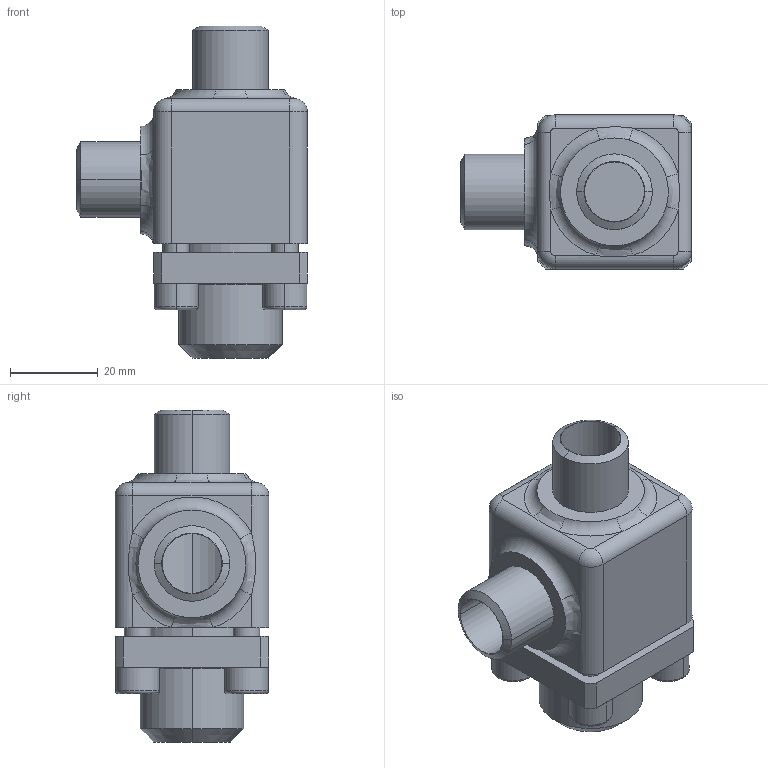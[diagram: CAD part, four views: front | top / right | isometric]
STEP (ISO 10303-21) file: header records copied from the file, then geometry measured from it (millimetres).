
FILE_DESCRIPTION (( 'STEP AP214' ), '1' );
FILE_NAME ('RV98400-DN010_R1_PS40.STEP', '2006-05-02T09:31:25', ( 'Herr Grams' ), ( 'AWP GmbH' ), 'SwSTEP 2.0', 'SolidWorks 2002296', '' );
FILE_SCHEMA (( 'AUTOMOTIVE_DESIGN' ));
Length unit declared in the file: millimetre
Products named in the file (5): RV98400-DN010_R1_PS40; Gehäuse96400E08-DN10_PS40_R1_Standard; RV98300E10_Deck+Schr-DN6-15_Standard; Deckel98300E10-DN6-15_PS40_Standard; Zylinderschraube-DIN912_M 6x 18
Assembly tree (7 placements, depth 3):
  RV98400-DN010_R1_PS40
    Gehäuse96400E08-DN10_PS40_R1_Standard
    RV98300E10_Deck+Schr-DN6-15_Standard
      Zylinderschraube-DIN912_M 6x 18  x4
      Deckel98300E10-DN6-15_PS40_Standard
Bounding box: 52.5 x 35 x 75.5 mm (x, y, z)
Volume: 49008.3 mm3; surface area: 20703.1 mm2
Topology: 6 solids, 6 shells, 173 faces, 382 edges, 236 vertices
Faces by surface type: plane 67, cylinder 62, torus 21, cone 16, bspline 7
Entity records: 8143 total; most frequent: CARTESIAN_POINT 4816, DIRECTION 646, ORIENTED_EDGE 536, AXIS2_PLACEMENT_3D 269, EDGE_CURVE 268, VERTEX_POINT 164, CIRCLE 146, EDGE_LOOP 140
